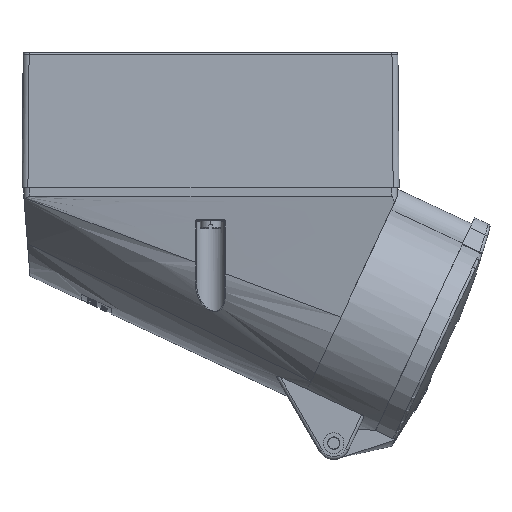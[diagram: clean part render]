
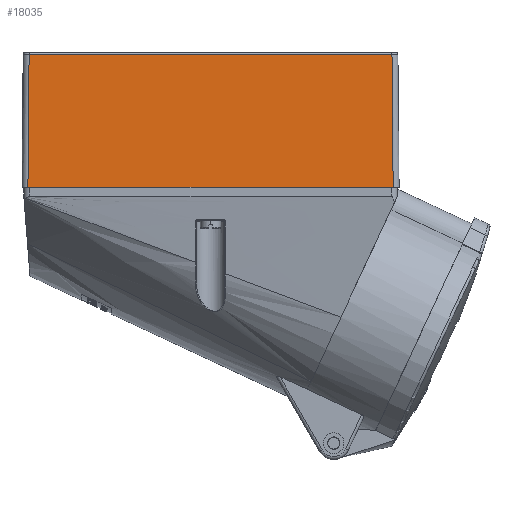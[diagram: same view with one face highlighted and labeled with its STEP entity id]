
A CAD part, left-side view. The second image highlights one B-rep face of the part: STEP entity #18035.
In plain terms, the highlighted planar face has unit normal (-1, 0, 0.009).
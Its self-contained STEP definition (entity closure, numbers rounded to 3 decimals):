
#3307=CARTESIAN_POINT('',(-41.5,-61.6,1.5));
#3309=DIRECTION('',(-0.009,-0.009,-1.));
#3310=VECTOR('',#3309,45.008);
#3311=CARTESIAN_POINT('',(-41.107,-61.207,
46.504));
#3312=LINE('1380',#3311,#3310);
#3371=CARTESIAN_POINT('',(-41.107,61.207,46.504));
#3382=DIRECTION('',(0.,-1.,0.));
#3383=VECTOR('',#3382,122.415);
#3384=CARTESIAN_POINT('',(-41.107,61.207,46.504));
#3385=LINE('1362',#3384,#3383);
#3391=DIRECTION('',(0.,-1.,0.));
#3392=VECTOR('',#3391,122.);
#3393=CARTESIAN_POINT('',(-41.5,61.,1.5));
#3394=LINE('2947',#3393,#3392);
#3395=DIRECTION('',(0.,-1.,0.));
#3396=VECTOR('',#3395,0.6);
#3397=CARTESIAN_POINT('',(-41.5,61.6,1.5));
#3398=LINE('2958',#3397,#3396);
#3399=DIRECTION('',(0.,-1.,0.));
#3400=VECTOR('',#3399,0.6);
#3401=CARTESIAN_POINT('',(-41.5,-61.,1.5));
#3402=LINE('2959',#3401,#3400);
#6935=DIRECTION('',(-0.009,0.009,-1.));
#6936=VECTOR('',#6935,45.008);
#6937=CARTESIAN_POINT('',(-41.107,61.207,46.504));
#6938=LINE('1373',#6937,#6936);
#6939=CARTESIAN_POINT('',(-41.5,61.6,1.5));
#13910=VERTEX_POINT('',#6939);
#13917=VERTEX_POINT('',#3307);
#13957=VERTEX_POINT('',#3371);
#13960=CARTESIAN_POINT('',(-41.107,-61.207,
46.504));
#13961=VERTEX_POINT('',#13960);
#15084=CARTESIAN_POINT('',(-41.5,61.,1.5));
#15085=CARTESIAN_POINT('',(-41.5,-61.,1.5));
#15086=VERTEX_POINT('',#15084);
#15087=VERTEX_POINT('',#15085);
#18019=CARTESIAN_POINT('',(-41.5,64.8,1.5));
#18020=DIRECTION('',(-1.,0.,0.009));
#18021=DIRECTION('',(0.,1.,0.));
#18022=AXIS2_PLACEMENT_3D('',#18019,#18020,#18021);
#18023=PLANE('428',#18022);
#18025=ORIENTED_EDGE('2947',*,*,#18024,.F.);
#18027=ORIENTED_EDGE('2958',*,*,#18026,.F.);
#18029=ORIENTED_EDGE('1373',*,*,#18028,.F.);
#18030=ORIENTED_EDGE('1362',*,*,#18006,.T.);
#18031=ORIENTED_EDGE('1380',*,*,#17804,.T.);
#18032=ORIENTED_EDGE('2959',*,*,#17483,.F.);
#18033=EDGE_LOOP('428',(#18025,#18027,#18029,#18030,#18031,#18032));
#18034=FACE_OUTER_BOUND('428',#18033,.F.);
#17483=EDGE_CURVE('2959',#15087,#13917,#3402,.T.);
#17804=EDGE_CURVE('1380',#13961,#13917,#3312,.T.);
#18006=EDGE_CURVE('1362',#13957,#13961,#3385,.T.);
#18024=EDGE_CURVE('2947',#15086,#15087,#3394,.T.);
#18026=EDGE_CURVE('2958',#13910,#15086,#3398,.T.);
#18028=EDGE_CURVE('1373',#13957,#13910,#6938,.T.);
#18035=ADVANCED_FACE('428',(#18034),#18023,.T.);
